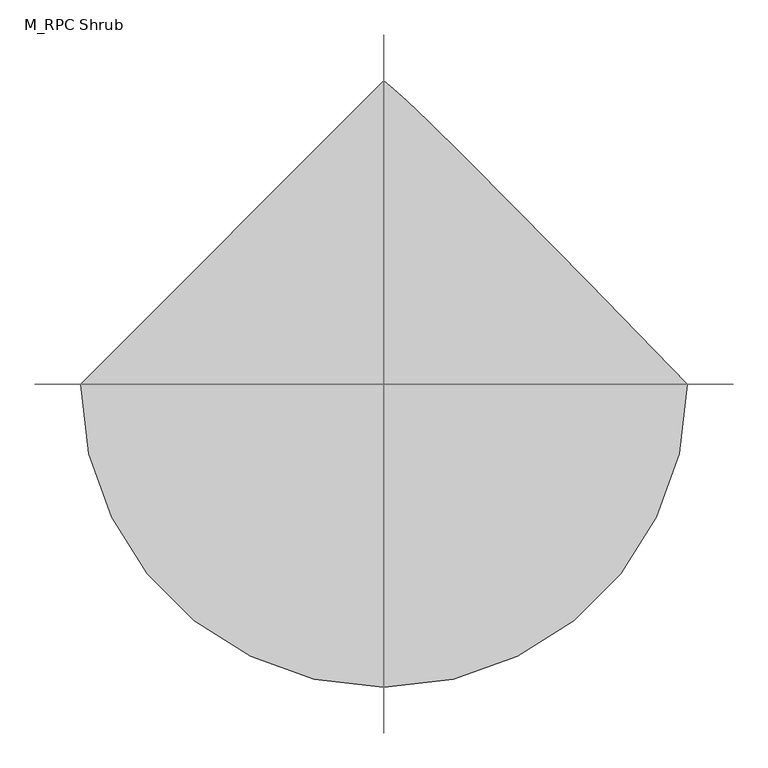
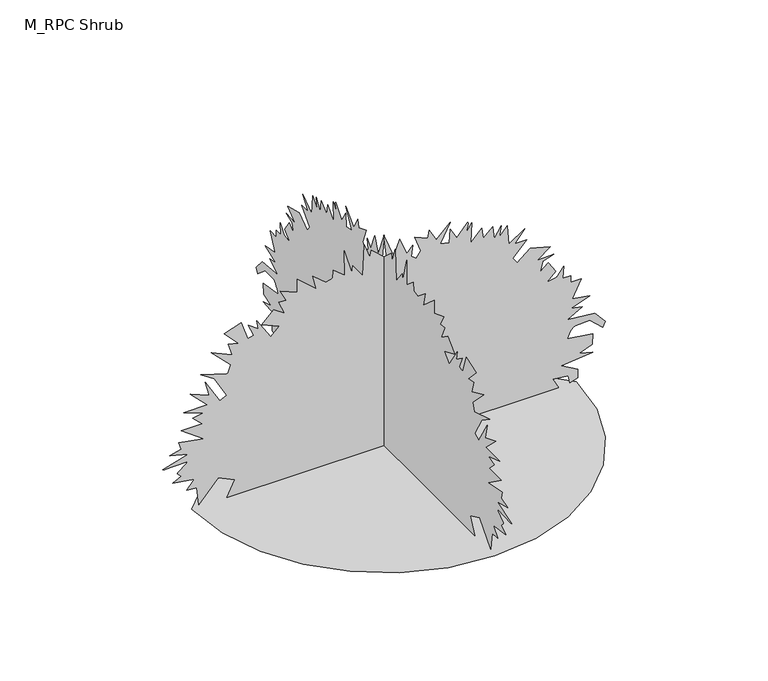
"""IFC4 building model written with IfcOpenShell, lengths in millimetres: geographic element geometry, M_RPC Shrub : Holly - 2.8 Meters."""

from ifc_helpers import new_model, si_unit, origin, place, context, project, spatial, triangles, source, transform, mapped, element, save


def m_rpc_shrub_65977daa(model_context):
    return source(origin(), model_context, "Body", "Tessellation", [
        triangles([(-2418.890871, 0.0, 0.0002248), (-2354.9497158, -554.2503262, 0.0002248), (-2172.8250767, -1063.2386621, 0.0002248), (-1887.1082142, -1512.3900982, 0.0002248), (-1512.3900982, -1887.1082142, 0.0002248), (-1063.2386621, -2172.8250767, 0.0002248), (-554.2503262, -2354.9497158, 0.0002248), (0.0001057, -2418.890871, 0.0002248), (554.2511255, -2354.9497158, 0.0002248), (1063.2386621, -2172.8250767, 0.0002248), (1512.3900982, -1887.1082142, 0.0002248), (1887.1082142, -1512.3900982, 0.0002248), (2172.8250767, -1063.2386621, 0.0002248), (2354.9497158, -554.2503262, 0.0002248), (2418.890871, 0.0002115, 0.0002248), (1632.8057133, 806.3306517, 0.0002248), (1050.0397585, 1400.0011734, 0.0002248), (636.7104092, 1816.4469749, 0.0002248), (358.9283821, 2091.1116051, 0.0002248), (182.8067014, 2259.4462429, 0.0002248), (74.4598355, 2356.8940739, 0.0002248), (-0.0003172, 2418.890871, 0.0002248), (-1.1e-05, -1978.0538258, 8.9e-06), (3e-06, -1880.8548168, 204.6124925), (0.0, -2084.975061, 301.9195799), (0.0, -2327.9763622, 29.7550788), (0.0, -2357.1430412, 263.0392133), (0.0, -2483.5007355, 272.7591142), (0.0, -2386.3018719, 389.400977), (0.0, -2658.462149, 428.2821067), (0.0, -2551.5410591, 486.6030381), (0.0, -2600.1441971, 535.204105), (6e-07, -2593.6966255, 546.1349785), (-2e-07, -2480.6465492, 636.7585894), (0.0, -2473.7786545, 651.8459679), (7e-07, -2765.9977364, 644.8039558), (0.0, -2784.8276917, 651.8459679), (0.0, -2464.0641312, 749.0472296), (0.0, -2697.343206, 807.3651089), (0.0, -2551.5410591, 846.2462385), (0.0, -2580.6997444, 943.4529505), (0.0, -2269.6584103, 885.1273682), (0.0, -2551.5410591, 1089.2553154), (0.0, -2289.0951599, 1089.2553154), (0.0, -2405.7386215, 1205.898777), (0.0, -2269.6584103, 1235.0576077), (0.0, -2522.3820831, 1322.5343903), (0.0, -2221.055127, 1322.5343903), (0.0, -2434.8974522, 1536.3845638), (0.0, -2201.6183773, 1439.1778519), (0.0, -2250.221806, 1633.5835728), (0.0, -2065.5306084, 1322.5343903), (0.0, -1978.0538258, 1361.4155926), (0.0, -2133.5783443, 1633.5835728), (0.0, -2308.5396126, 1750.226889), (0.0, -1968.3315994, 1643.3057991), (0.0, -1929.4503971, 1750.226889), (0.0, -2172.4595467, 1993.2281902), (0.0, -1910.0137928, 1876.584874), (0.0, -1958.6170761, 2032.1093925), (0.0, -1832.2515335, 2002.9505619), (0.0, -2007.2126564, 2187.6339111), (0.0, -1793.3703312, 2265.3963158), (0.0, -1715.6080719, 2022.3871662), (0.0, -1637.8458126, 2041.8316189), (0.0, -1705.8858456, 2197.3484344), (0.0, -1579.5278606, 2109.8716518), (1.9e-06, -1598.9646103, 2217.8117203), (0.0, -1424.0033421, 1944.6249069), (0.0, -1317.0821068, 2051.5461422), (0.0, -1540.6468037, 2148.7528542), (0.0, -1385.1222851, 2294.5551464), (0.0, -1249.0420738, 2197.3484344), (0.0, -1326.8043331, 2372.3174057), (0.0, -1229.5976212, 2362.5951794), (0.0, -1307.3598804, 2508.3974716), (0.0, -1093.5175552, 2420.912986), (0.0, -1093.5175552, 2595.8819572), (0.0, -850.516254, 2382.031929), (0.0, -899.1118343, 2566.7154236), (0.0, -733.8720657, 2430.6352123), (0.0, -646.3914316, 2450.0798103), (0.0, -636.669932, 2557.0009003), (0.0, -490.8676034, 2440.3574387), (0.0, -500.5890667, 2770.8433708), (0.0, -403.3870056, 2440.3574387), (0.0, -393.6663054, 2527.8343666), (0.0, -267.3037604, 2352.872953), (0.0, -247.8639768, 2761.1209991), (0.0, -179.8223632, 2566.7154236), (0.0, -160.3825796, 2654.1999092), (0.0, 34.020339, 2479.2387863), (0.0, -4.8595439, 2800.0023468), (0.0, 121.5029851, 2479.2387863), (0.0, 199.2637093, 2673.6365135), (0.0, 286.7451246, 2450.0798103), (0.0, 364.506639, 2537.5564476), (0.0, 345.0660378, 2401.4763817), (0.0, 403.3877687, 2352.872953), (0.0, 461.7087001, 2430.6352123), (0.0, 383.9472038, 2634.7633049), (0.0, 549.1900972, 2566.7154236), (0.0, 568.629136, 2663.9219902), (0.0, 656.1120592, 2508.3974716), (0.0, 831.0718014, 2683.3588852), (0.0, 704.7123631, 2440.3574387), (0.0, 821.3573507, 2411.198608), (0.0, 831.0718014, 2586.1598763), (0.0, 918.556287, 2440.3574387), (0.0, 1048.4608578, 2599.3355255), (0.0, 1055.6008289, 2598.7442825), (0.0, 1057.6464163, 2586.6653687), (0.0, 1035.1997486, 2469.5164146), (0.0, 1103.2397816, 2576.4375046), (0.0, 1093.5175552, 2313.9918961), (0.0, 1229.6054695, 2459.7943336), (0.0, 1249.0420738, 2323.7141224), (0.0, 1365.6855354, 2430.6352123), (0.0, 1385.1222851, 2265.3963158), (0.0, 1472.6067707, 2411.198608), (0.0, 1453.162318, 2265.3963158), (0.0, 1550.36903, 2382.031929), (0.0, 1569.8056343, 2129.3084015), (0.0, 1773.9335815, 2265.3963158), (0.0, 1647.5680389, 2109.8716518), (0.0, 1793.3703312, 2109.8716518), (0.0, 1618.409063, 1925.1881573), (0.0, 1676.7268696, 1847.425898), (0.0, 1841.9737598, 1983.5059639), (0.0, 2094.6972874, 1915.4659309), (0.0, 1929.4503971, 1789.1080914), (0.0, 2133.5783443, 1798.8226147), (0.0, 1997.4982784, 1750.226889), (0.0, 1968.3315994, 1623.8613464), (0.0, 2065.5383114, 1711.3458321), (0.0, 2162.7373203, 1565.5435398), (0.0, 2046.0938587, 1458.6223045), (0.0, 2172.4595467, 1478.0589088), (0.0, 2259.9361839, 1594.7023705), (0.0, 2250.221806, 1439.1778519), (0.0, 2347.4208149, 1439.1778519), (0.0, 2347.4208149, 1351.7010693), (0.0, 2483.5007355, 1351.7010693), (0.0, 2366.8574192, 1128.136445), (0.0, 2590.4221161, 1089.2553154), (0.0, 2357.1430412, 1001.7708298), (0.0, 2493.2231071, 972.6118538), (0.0, 2308.5396126, 865.6906912), (0.0, 2648.7476257, 836.5317879), (0.0, 2784.8276917, 681.0064699), (0.0, 2755.6690063, 612.9648382), (0.0, 2590.4221161, 758.7671305), (0.0, 2404.6963886, 754.5165905), (0.0, 2380.095274, 742.6142647), (0.0, 2360.1762863, 724.3356565), (0.0, 2343.9907917, 700.956415), (0.0, 2330.6129745, 673.7513168), (0.0, 2319.1096069, 643.9958656), (0.0, 2308.5396126, 612.9648382), (0.0, 2629.3031731, 564.3645707), (0.0, 2619.5886497, 428.2821067), (0.0, 2454.3420502, 369.9611753), (0.0, 2629.3031731, 321.3601447), (0.0, 2230.7773533, 282.4797781), (0.0, 2434.9053005, 165.837134), (0.0, 2434.9053005, 49.1954165), (0.0, 2337.6985886, 20.0349485), (0.0, 2318.2618389, 117.2368756), (0.0, 2123.856118, 136.6766683), (0.0, 2201.6183773, 0.5946061), (-1978.0538258, 0.0003643, 0.0), (-1880.8548168, 0.000338, 204.6124925), (-2084.975061, 0.0003353, 301.9195799), (-2327.9763622, 0.0003515, 29.7550788), (-2357.1430412, 0.0003376, 263.0392133), (-2483.5007355, 0.000337, 272.7591142), (-2386.3018719, 0.0003301, 389.400977), (-2658.462149, 0.0003277, 428.2821067), (-2551.5410591, 0.0003243, 486.6030381), (-2600.1441971, 0.0003214, 535.204105), (-2593.6966255, 0.0003201, 546.1349785), (-2480.6465492, 0.0003155, 636.7585894), (-2473.7786545, 0.0003144, 651.8459679), (-2765.9977364, 0.0003141, 644.8039558), (-2784.8276917, 0.0003144, 651.8459679), (-2464.0641312, 0.0003086, 749.0472296), (-2697.343206, 0.0003051, 807.3651089), (-2551.5410591, 0.0003028, 846.2462385), (-2580.6997444, 0.000297, 943.4529505), (-2269.6584103, 0.0003005, 885.1273682), (-2551.5410591, 0.0002883, 1089.2553154), (-2289.0951599, 0.0002883, 1089.2553154), (-2405.7386215, 0.0002814, 1205.898777), (-2269.6584103, 0.0002797, 1235.0576077), (-2522.3820831, 0.0002744, 1322.5343903), (-2221.055127, 0.0002744, 1322.5343903), (-2434.8974522, 0.0002617, 1536.3767155), (-2201.6183773, 0.0002675, 1439.1778519), (-2250.221806, 0.0002559, 1633.5835728), (-2065.5383114, 0.0002744, 1322.5343903), (-1978.0538258, 0.0002721, 1361.4155926), (-2133.5783443, 0.0002559, 1633.5835728), (-2308.5396126, 0.0002489, 1750.226889), (-1968.3315994, 0.0002553, 1643.3057991), (-1929.4503971, 0.0002489, 1750.226889), (-2172.4595467, 0.0002345, 1993.2281902), (-1910.0137928, 0.0002414, 1876.584874), (-1958.6170761, 0.0002321, 2032.1093925), (-1832.2515335, 0.0002339, 2002.9505619), (-2007.2126564, 0.0002229, 2187.6339111), (-1793.3703312, 0.0002182, 2265.3963158), (-1715.6080719, 0.0002327, 2022.3871662), (-1637.8458126, 0.0002316, 2041.8316189), (-1705.8858456, 0.0002223, 2197.3484344), (-1579.5278606, 0.0002275, 2109.8716518), (-1598.9646103, 0.0002192, 2217.8117203), (-1424.0033421, 0.0002374, 1944.6249069), (-1317.0821068, 0.000231, 2051.5461422), (-1540.6468037, 0.0002252, 2148.7528542), (-1385.1222851, 0.0002165, 2294.5551464), (-1249.0420738, 0.0002223, 2197.3484344), (-1326.8043331, 0.0002119, 2372.3174057), (-1229.6054695, 0.0002124, 2362.5951794), (-1307.3598804, 0.0002038, 2508.3974716), (-1093.5175552, 0.000209, 2420.912986), (-1093.5175552, 0.0001985, 2595.8819572), (-850.516254, 0.0002113, 2382.031929), (-899.1118343, 0.0002003, 2566.7154236), (-733.8720657, 0.0002084, 2430.6352123), (-646.3914316, 0.0002072, 2450.0798103), (-636.6707314, 0.0002009, 2557.0009003), (-490.8676034, 0.0002078, 2440.3574387), (-500.5890667, 0.0001881, 2770.8433708), (-403.3877687, 0.0002078, 2440.3574387), (-393.6663054, 0.0002026, 2527.8343666), (-267.3045416, 0.000213, 2352.872953), (-247.8639768, 0.0001887, 2761.1209991), (-179.8231444, 0.0002003, 2566.7154236), (-160.3833426, 0.0001951, 2654.1999092), (34.0200278, 0.0002055, 2479.2387863), (-4.8598238, 0.0001864, 2800.0023468), (121.5022039, 0.0002055, 2479.2387863), (199.2637093, 0.0001939, 2673.6365135), (286.7451246, 0.0002072, 2450.0798103), (364.506639, 0.000202, 2537.5564476), (345.0660378, 0.0002101, 2401.4763817), (403.3870056, 0.000213, 2352.872953), (461.707937, 0.0002084, 2430.6352123), (383.9472038, 0.0001962, 2634.7554565), (549.1893342, 0.0002003, 2566.7154236), (568.629136, 0.0001945, 2663.9219902), (656.1113325, 0.0002038, 2508.3974716), (831.0718014, 0.0001933, 2683.3588852), (704.7123631, 0.0002078, 2440.3574387), (821.3573507, 0.0002095, 2411.198608), (831.0718014, 0.0001991, 2586.1598763), (918.556287, 0.0002078, 2440.3574387), (1048.4608578, 0.0001983, 2599.3355255), (1055.6008289, 0.0001984, 2598.7442825), (1057.6386406, 0.0001991, 2586.6653687), (1035.1997486, 0.0002061, 2469.5164146), (1103.2397816, 0.0001997, 2576.4375046), (1093.5175552, 0.0002153, 2313.9918961), (1229.5976212, 0.0002067, 2459.7943336), (1249.0420738, 0.0002148, 2323.7141224), (1365.6855354, 0.0002084, 2430.6352123), (1385.1222851, 0.0002182, 2265.3963158), (1472.6067707, 0.0002095, 2411.198608), (1453.162318, 0.0002182, 2265.3963158), (1550.36903, 0.0002113, 2382.031929), (1569.8056343, 0.0002264, 2129.3084015), (1773.9335815, 0.0002182, 2265.3963158), (1647.5680389, 0.0002275, 2109.8716518), (1793.3703312, 0.0002275, 2109.8716518), (1618.409063, 0.0002385, 1925.1881573), (1676.7268696, 0.0002432, 1847.425898), (1841.9737598, 0.000235, 1983.5059639), (2094.6972874, 0.0002391, 1915.4659309), (1929.4503971, 0.0002466, 1789.1080914), (2133.5783443, 0.000246, 1798.8226147), (1997.4982784, 0.0002489, 1750.226889), (1968.3315994, 0.0002565, 1623.8613464), (2065.5383114, 0.0002513, 1711.3458321), (2162.7373203, 0.00026, 1565.5435398), (2046.0938587, 0.0002663, 1458.6223045), (2172.4595467, 0.0002652, 1478.0589088), (2259.9361839, 0.0002582, 1594.7023705), (2250.221806, 0.0002675, 1439.1778519), (2347.4208149, 0.0002675, 1439.1778519), (2347.4208149, 0.0002727, 1351.7010693), (2483.5007355, 0.0002727, 1351.7010693), (2366.8574192, 0.000286, 1128.136445), (2590.4221161, 0.0002883, 1089.2553154), (2357.1430412, 0.0002936, 1001.7708298), (2493.2231071, 0.0002953, 972.6118538), (2308.5396126, 0.0003017, 865.6906912), (2648.7476257, 0.0003034, 836.5317879), (2784.8276917, 0.0003127, 681.0064699), (2755.6690063, 0.0003167, 612.9648382), (2590.4221161, 0.000308, 758.7671305), (2404.6963886, 0.0003083, 754.5165905), (2380.095274, 0.000309, 742.6142647), (2360.1762863, 0.0003101, 724.3356565), (2343.9907917, 0.0003115, 700.956415), (2330.6129745, 0.0003131, 673.7513168), (2319.1096069, 0.0003149, 643.9958656), (2308.5396126, 0.0003167, 612.9648382), (2629.3031731, 0.0003196, 564.3637713), (2619.5886497, 0.0003277, 428.2821067), (2454.3420502, 0.0003312, 369.9611753), (2629.3031731, 0.0003341, 321.3601447), (2230.7773533, 0.0003364, 282.4789969), (2434.9053005, 0.0003434, 165.837134), (2434.9053005, 0.0003503, 49.1954165), (2337.6985886, 0.0003521, 20.0349485), (2318.2618389, 0.0003463, 117.2368756), (2123.856118, 0.0003451, 136.6766683), (2201.6183773, 0.0003532, 0.5945976)], [[21, 22, 1], [20, 21, 1], [19, 20, 1], [18, 19, 1], [17, 18, 1], [17, 1, 2], [17, 2, 3], [17, 3, 4], [16, 17, 4], [16, 4, 5], [16, 5, 6], [16, 6, 7], [16, 7, 8], [16, 8, 9], [16, 9, 10], [16, 10, 11], [16, 11, 12], [15, 16, 12], [14, 15, 12], [13, 14, 12], [92, 93, 94], [84, 85, 86], [54, 55, 56], [50, 51, 52], [131, 132, 133], [123, 124, 125], [104, 105, 106], [46, 47, 48], [57, 58, 59], [88, 89, 90], [48, 49, 50], [67, 68, 69], [119, 120, 121], [162, 163, 164], [38, 39, 40], [113, 114, 115], [144, 145, 146], [65, 66, 67], [138, 139, 140], [96, 97, 98], [107, 108, 109], [79, 80, 81], [42, 43, 44], [29, 30, 31], [36, 37, 38], [75, 76, 77], [102, 103, 104], [146, 147, 148], [86, 87, 88], [94, 95, 96], [121, 122, 123], [125, 126, 127], [100, 101, 102], [77, 78, 79], [25, 26, 27], [115, 116, 117], [129, 130, 131], [117, 118, 119], [27, 28, 29], [82, 83, 84], [44, 45, 46], [48, 50, 52], [59, 60, 61], [169, 170, 23], [73, 74, 75], [90, 91, 92], [142, 143, 144], [40, 41, 42], [38, 40, 42], [169, 23, 24], [53, 54, 56], [61, 62, 63], [61, 63, 64], [70, 71, 72], [70, 72, 73], [150, 151, 152], [149, 150, 152], [148, 149, 152], [148, 152, 153], [128, 129, 131], [148, 153, 154], [35, 36, 38], [134, 135, 136], [134, 136, 137], [65, 67, 69], [166, 167, 168], [165, 166, 168], [164, 165, 168], [164, 168, 169], [88, 90, 92], [140, 141, 142], [100, 102, 104], [159, 160, 161], [159, 161, 162], [25, 27, 29], [123, 125, 127], [148, 154, 155], [100, 104, 106], [110, 111, 112], [109, 110, 112], [109, 112, 113], [109, 113, 115], [31, 32, 33], [131, 133, 134], [159, 162, 164], [128, 131, 134], [46, 48, 52], [73, 75, 77], [73, 77, 79], [29, 31, 33], [29, 33, 34], [44, 46, 52], [148, 155, 156], [164, 169, 24], [159, 164, 24], [158, 159, 24], [157, 158, 24], [156, 157, 24], [148, 156, 24], [146, 148, 24], [144, 146, 24], [142, 144, 24], [140, 142, 24], [138, 140, 24], [137, 138, 24], [134, 137, 24], [128, 134, 24], [127, 128, 24], [123, 127, 24], [121, 123, 24], [119, 121, 24], [117, 119, 24], [115, 117, 24], [109, 115, 24], [107, 109, 24], [106, 107, 24], [106, 24, 25], [106, 25, 29], [106, 29, 34], [106, 34, 35], [106, 35, 38], [106, 38, 42], [106, 42, 44], [106, 44, 52], [106, 52, 53], [106, 53, 56], [99, 100, 106], [99, 106, 56], [99, 56, 57], [98, 99, 57], [96, 98, 57], [94, 96, 57], [59, 61, 64], [57, 59, 64], [70, 73, 79], [64, 65, 69], [57, 64, 69], [94, 57, 69], [84, 86, 88], [88, 92, 94], [88, 94, 69], [88, 69, 70], [88, 70, 79], [84, 88, 79], [82, 84, 79], [82, 79, 81], [240, 241, 242], [232, 233, 234], [202, 203, 204], [198, 199, 200], [279, 280, 281], [271, 272, 273], [252, 253, 254], [194, 195, 196], [205, 206, 207], [236, 237, 238], [196, 197, 198], [215, 216, 217], [267, 268, 269], [310, 311, 312], [186, 187, 188], [261, 262, 263], [292, 293, 294], [213, 214, 215], [286, 287, 288], [244, 245, 246], [255, 256, 257], [227, 228, 229], [190, 191, 192], [177, 178, 179], [184, 185, 186], [223, 224, 225], [250, 251, 252], [294, 295, 296], [234, 235, 236], [242, 243, 244], [269, 270, 271], [273, 274, 275], [248, 249, 250], [225, 226, 227], [173, 174, 175], [263, 264, 265], [277, 278, 279], [265, 266, 267], [175, 176, 177], [230, 231, 232], [192, 193, 194], [196, 198, 200], [207, 208, 209], [317, 318, 171], [221, 222, 223], [238, 239, 240], [290, 291, 292], [188, 189, 190], [186, 188, 190], [317, 171, 172], [201, 202, 204], [209, 210, 211], [209, 211, 212], [218, 219, 220], [218, 220, 221], [298, 299, 300], [297, 298, 300], [296, 297, 300], [296, 300, 301], [276, 277, 279], [296, 301, 302], [183, 184, 186], [282, 283, 284], [282, 284, 285], [213, 215, 217], [314, 315, 316], [313, 314, 316], [312, 313, 316], [312, 316, 317], [236, 238, 240], [288, 289, 290], [248, 250, 252], [307, 308, 309], [307, 309, 310], [173, 175, 177], [271, 273, 275], [296, 302, 303], [248, 252, 254], [258, 259, 260], [257, 258, 260], [257, 260, 261], [257, 261, 263], [179, 180, 181], [279, 281, 282], [307, 310, 312], [276, 279, 282], [194, 196, 200], [221, 223, 225], [221, 225, 227], [177, 179, 181], [177, 181, 182], [192, 194, 200], [296, 303, 304], [312, 317, 172], [307, 312, 172], [306, 307, 172], [305, 306, 172], [304, 305, 172], [296, 304, 172], [294, 296, 172], [292, 294, 172], [290, 292, 172], [288, 290, 172], [286, 288, 172], [285, 286, 172], [282, 285, 172], [276, 282, 172], [275, 276, 172], [271, 275, 172], [269, 271, 172], [267, 269, 172], [265, 267, 172], [263, 265, 172], [257, 263, 172], [255, 257, 172], [254, 255, 172], [254, 172, 173], [254, 173, 177], [254, 177, 182], [254, 182, 183], [254, 183, 186], [254, 186, 190], [254, 190, 192], [254, 192, 200], [254, 200, 201], [254, 201, 204], [247, 248, 254], [247, 254, 204], [247, 204, 205], [246, 247, 205], [244, 246, 205], [242, 244, 205], [207, 209, 212], [205, 207, 212], [218, 221, 227], [212, 213, 217], [205, 212, 217], [242, 205, 217], [232, 234, 236], [236, 240, 242], [236, 242, 217], [236, 217, 218], [236, 218, 227], [232, 236, 227], [230, 232, 227], [230, 227, 229]], closed=False),
    ])


if __name__ == "__main__":
    model = new_model("IFC4")
    model_context = context("Model", 3, world=origin())
    ifc_project = project(units=[si_unit("LENGTHUNIT", "METRE", prefix="MILLI")], contexts=[model_context])
    site = spatial("IfcSite", under=ifc_project)
    building = spatial("IfcBuilding", under=site)
    placement = place(None, origin())
    m_rpc_shrub_shape = m_rpc_shrub_65977daa(model_context)
    element("IfcGeographicElement", 1, ObjectType="M_RPC Shrub : Holly - 2.8 Meters", at=placement, inside=building, context=model_context, shape_type="MappedRepresentation", body=[
        mapped(m_rpc_shrub_shape, transform((0.0, 0.0, 0.0), x_axis=(1.0, 0.0, 0.0), y_axis=(0.0, 1.0, 0.0), z_axis=(0.0, 0.0, 1.0))),
    ])
    save(model, "model.ifc")
